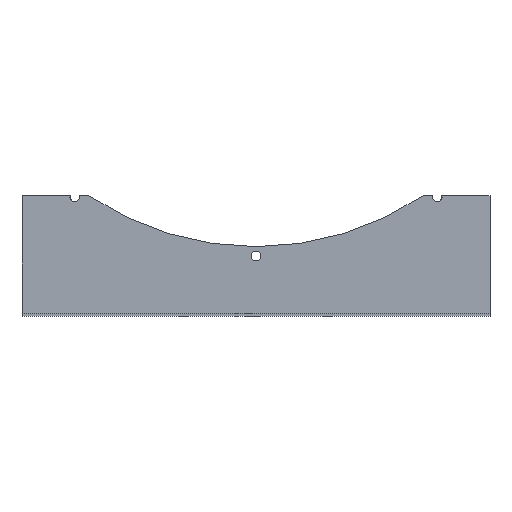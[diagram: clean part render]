
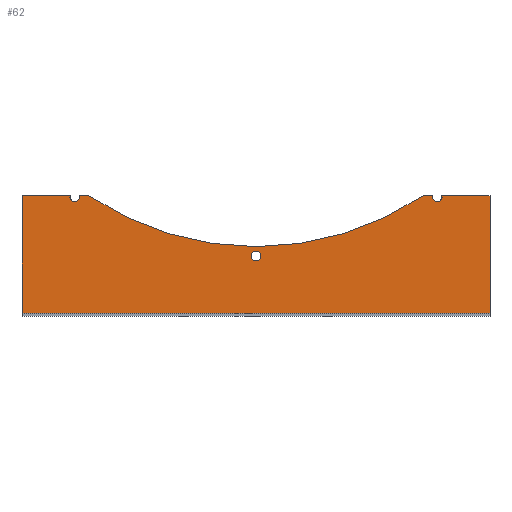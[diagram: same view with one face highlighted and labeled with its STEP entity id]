
A CAD part, top view. The second image highlights one B-rep face of the part: STEP entity #62.
In plain terms, the highlighted planar face has unit normal (0, 0, 1).
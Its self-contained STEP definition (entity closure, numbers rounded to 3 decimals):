
#62=ADVANCED_FACE('',(#134,#135),#136,.T.);
#134=FACE_BOUND('',#221,.T.);
#135=FACE_OUTER_BOUND('',#222,.T.);
#136=PLANE('',#223);
#221=EDGE_LOOP('',(#337,#338));
#222=EDGE_LOOP('',(#339,#340,#341,#342,#343,#344,#345,#346,#347,#348,#349,#350));
#223=AXIS2_PLACEMENT_3D('',#351,#352,#353);
#337=ORIENTED_EDGE('',*,*,#525,.T.);
#338=ORIENTED_EDGE('',*,*,#543,.T.);
#339=ORIENTED_EDGE('',*,*,#535,.T.);
#340=ORIENTED_EDGE('',*,*,#541,.T.);
#341=ORIENTED_EDGE('',*,*,#544,.F.);
#342=ORIENTED_EDGE('',*,*,#545,.F.);
#343=ORIENTED_EDGE('',*,*,#546,.F.);
#344=ORIENTED_EDGE('',*,*,#547,.F.);
#345=ORIENTED_EDGE('',*,*,#548,.F.);
#346=ORIENTED_EDGE('',*,*,#549,.T.);
#347=ORIENTED_EDGE('',*,*,#532,.T.);
#348=ORIENTED_EDGE('',*,*,#550,.F.);
#349=ORIENTED_EDGE('',*,*,#551,.T.);
#350=ORIENTED_EDGE('',*,*,#552,.F.);
#351=CARTESIAN_POINT('',(0.0,4.0,-21.0));
#352=DIRECTION('',(0.0,0.0,1.0));
#353=DIRECTION('',(1.0,0.0,0.0));
#525=EDGE_CURVE('',#629,#626,#630,.T.);
#532=EDGE_CURVE('',#636,#640,#642,.T.);
#535=EDGE_CURVE('',#647,#644,#648,.T.);
#541=EDGE_CURVE('',#644,#655,#657,.T.);
#543=EDGE_CURVE('',#626,#629,#659,.T.);
#544=EDGE_CURVE('',#660,#655,#661,.T.);
#545=EDGE_CURVE('',#662,#660,#663,.T.);
#546=EDGE_CURVE('',#664,#662,#665,.T.);
#547=EDGE_CURVE('',#666,#664,#667,.T.);
#548=EDGE_CURVE('',#668,#666,#669,.T.);
#549=EDGE_CURVE('',#668,#636,#670,.T.);
#550=EDGE_CURVE('',#671,#640,#672,.T.);
#551=EDGE_CURVE('',#671,#673,#674,.T.);
#552=EDGE_CURVE('',#647,#673,#675,.T.);
#626=VERTEX_POINT('',#766);
#629=VERTEX_POINT('',#770);
#630=CIRCLE('',#771,6.0);
#636=VERTEX_POINT('',#778);
#640=VERTEX_POINT('',#783);
#642=CIRCLE('',#786,6.0);
#644=VERTEX_POINT('',#788);
#647=VERTEX_POINT('',#792);
#648=CIRCLE('',#793,6.0);
#655=VERTEX_POINT('',#801);
#657=CIRCLE('',#804,6.0);
#659=CIRCLE('',#806,6.0);
#660=VERTEX_POINT('',#807);
#661=LINE('',#808,#809);
#662=VERTEX_POINT('',#810);
#663=LINE('',#811,#812);
#664=VERTEX_POINT('',#813);
#665=LINE('',#814,#815);
#666=VERTEX_POINT('',#816);
#667=LINE('',#817,#818);
#668=VERTEX_POINT('',#819);
#669=LINE('',#820,#821);
#670=CIRCLE('',#822,6.0);
#671=VERTEX_POINT('',#823);
#672=LINE('',#824,#825);
#673=VERTEX_POINT('',#826);
#674=CIRCLE('',#827,383.5);
#675=LINE('',#828,#829);
#766=CARTESIAN_POINT('',(6.0,0.,-21.0));
#770=CARTESIAN_POINT('',(-6.0,0.,-21.0));
#771=AXIS2_PLACEMENT_3D('',#931,#932,#933);
#778=CARTESIAN_POINT('',(227.615,72.007,-21.0));
#783=CARTESIAN_POINT('',(226.8,77.5,-21.0));
#786=AXIS2_PLACEMENT_3D('',#943,#944,#945);
#788=CARTESIAN_POINT('',(-227.615,72.007,-21.0));
#792=CARTESIAN_POINT('',(-226.8,77.5,-21.0));
#793=AXIS2_PLACEMENT_3D('',#947,#948,#949);
#801=CARTESIAN_POINT('',(-238.138,77.5,-21.0));
#804=AXIS2_PLACEMENT_3D('',#958,#959,#960);
#806=AXIS2_PLACEMENT_3D('',#961,#962,#963);
#807=CARTESIAN_POINT('',(-300.0,77.5,-21.0));
#808=CARTESIAN_POINT('',(0.0,77.5,-21.0));
#809=VECTOR('',#964,1.0);
#810=CARTESIAN_POINT('',(-300.0,-73.5,-21.0));
#811=CARTESIAN_POINT('',(-300.0,2.0,-21.0));
#812=VECTOR('',#965,1.0);
#813=CARTESIAN_POINT('',(300.0,-73.5,-21.0));
#814=CARTESIAN_POINT('',(0.0,-73.5,-21.0));
#815=VECTOR('',#966,1.0);
#816=CARTESIAN_POINT('',(300.0,77.5,-21.0));
#817=CARTESIAN_POINT('',(300.0,2.0,-21.0));
#818=VECTOR('',#967,1.0);
#819=CARTESIAN_POINT('',(238.138,77.5,-21.0));
#820=CARTESIAN_POINT('',(0.0,77.5,-21.0));
#821=VECTOR('',#968,1.0);
#822=AXIS2_PLACEMENT_3D('',#969,#970,#971);
#823=CARTESIAN_POINT('',(214.355,77.5,-21.0));
#824=CARTESIAN_POINT('',(0.0,77.5,-21.0));
#825=VECTOR('',#972,1.0);
#826=CARTESIAN_POINT('',(-214.355,77.5,-21.0));
#827=AXIS2_PLACEMENT_3D('',#973,#974,#975);
#828=CARTESIAN_POINT('',(0.0,77.5,-21.0));
#829=VECTOR('',#976,1.0);
#931=CARTESIAN_POINT('',(0.0,0.0,-21.0));
#932=DIRECTION('',(0.0,0.0,-1.0));
#933=DIRECTION('',(1.0,0.0,0.0));
#943=CARTESIAN_POINT('',(232.469,75.534,-21.0));
#944=DIRECTION('',(0.0,0.0,-1.0));
#945=DIRECTION('',(0.809,0.588,0.0));
#947=CARTESIAN_POINT('',(-232.469,75.534,-21.0));
#948=DIRECTION('',(0.0,-0.0,-1.0));
#949=DIRECTION('',(0.809,-0.588,0.0));
#958=CARTESIAN_POINT('',(-232.469,75.534,-21.0));
#959=DIRECTION('',(0.0,-0.0,-1.0));
#960=DIRECTION('',(0.809,-0.588,0.0));
#961=CARTESIAN_POINT('',(0.0,0.0,-21.0));
#962=DIRECTION('',(0.0,0.0,-1.0));
#963=DIRECTION('',(1.0,0.0,0.0));
#964=DIRECTION('',(1.0,0.0,-0.0));
#965=DIRECTION('',(0.0,1.0,0.0));
#966=DIRECTION('',(-1.0,0.0,0.0));
#967=DIRECTION('',(0.0,-1.0,0.0));
#968=DIRECTION('',(1.0,0.0,-0.0));
#969=CARTESIAN_POINT('',(232.469,75.534,-21.0));
#970=DIRECTION('',(0.0,0.0,-1.0));
#971=DIRECTION('',(0.809,0.588,0.0));
#972=DIRECTION('',(1.0,0.0,-0.0));
#973=CARTESIAN_POINT('',(0.0,395.5,-21.0));
#974=DIRECTION('',(0.0,0.0,-1.0));
#975=DIRECTION('',(1.0,0.0,0.0));
#976=DIRECTION('',(1.0,0.0,-0.0));
